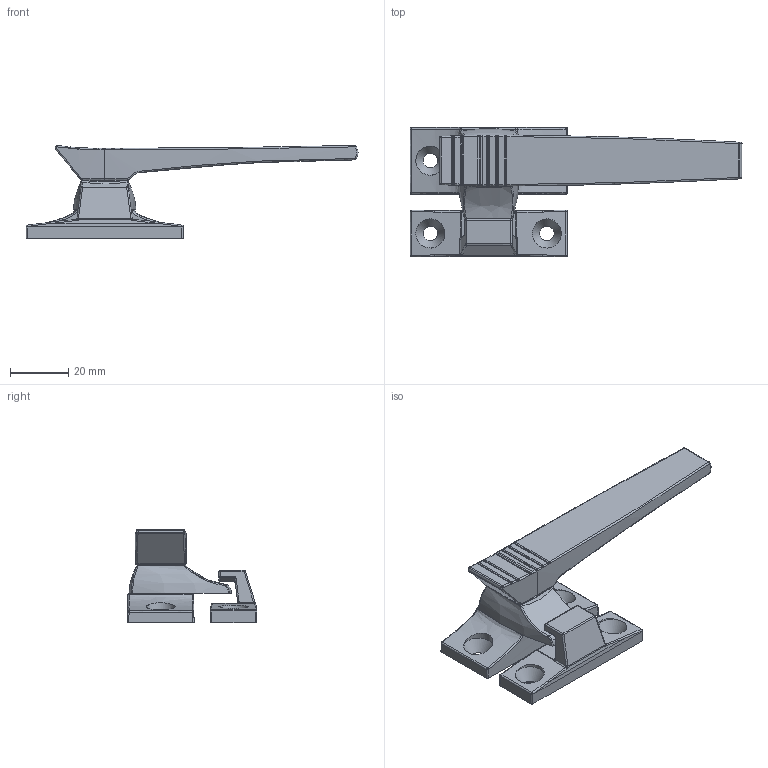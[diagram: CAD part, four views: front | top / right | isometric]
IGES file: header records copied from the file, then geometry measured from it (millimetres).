
Global section: file name: DR_D-1118-3; native system: Autodesk Inventor 2015; preprocessor: unknown; author: Administrator; date: 20170726.085748; units: millimetre
Bounding box: 114 x 44.5 x 31.97 mm (x, y, z)
Volume: 30227.1 mm3; surface area: 16918.8 mm2
Topology: 7 solids, 7 shells, 369 faces, 885 edges, 519 vertices
Faces by surface type: bspline 369
